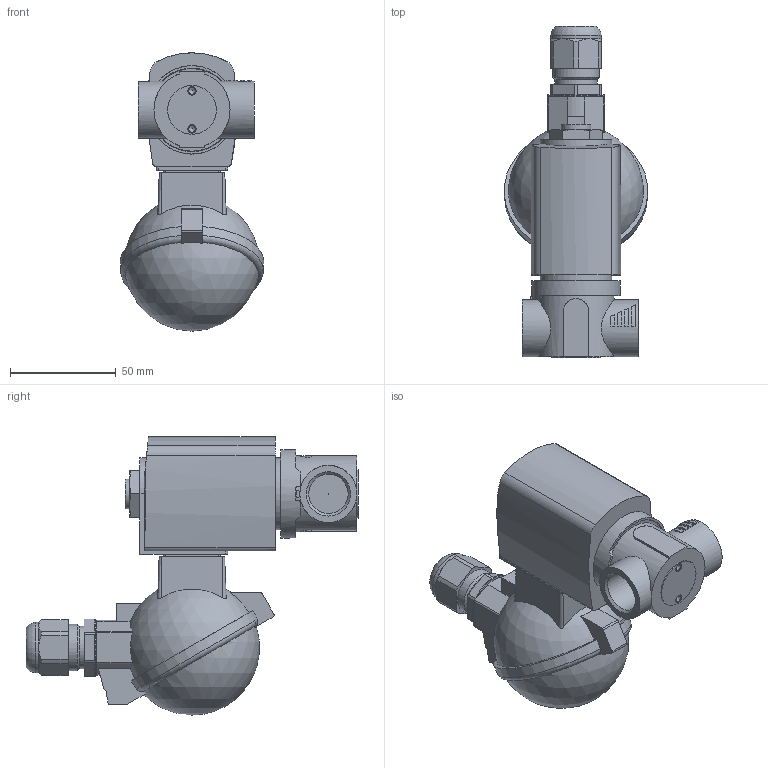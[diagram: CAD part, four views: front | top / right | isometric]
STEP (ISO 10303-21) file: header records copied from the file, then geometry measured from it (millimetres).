
FILE_DESCRIPTION(/* description */ ('STEP AP214'),/* implementation_level */ '2;1');
FILE_NAME(/* name */ '6027-A-10-FKM___FKM-MS-G_1_2-42-024___UC',/* time_stamp */ '2024-03-20T09:47:59+01:00',/* author */ ('License CC BY-ND 4.0'),/* organization */ ('CADENAS'),/* preprocessor_version */ 'ST-DEVELOPER v19.3',/* originating_system */ 'PARTsolutions',/* authorisation */ ' ');
FILE_SCHEMA (('AUTOMOTIVE_DESIGN {1 0 10303 214 3 1 1}'));
Length unit declared in the file: millimetre
Products named in the file (3): 6027-A-10-FKM / FKM-MS-G 1/2-42-024 / UC; AC10ex-42ATEXKLK_MB05Plan-Coil; V027-Gehaeuse G 1/2 1 1 MS G55 3 1
Assembly tree (2 placements, depth 2):
  6027-A-10-FKM / FKM-MS-G 1/2-42-024 / UC
    AC10ex-42ATEXKLK_MB05Plan-Coil
    V027-Gehaeuse G 1/2 1 1 MS G55 3 1
Bounding box: 67.86 x 157.1 x 131.7 mm (x, y, z)
Volume: 358030.1 mm3; surface area: 51120.7 mm2
Topology: 2 solids, 2 shells, 218 faces, 561 edges, 366 vertices
Faces by surface type: plane 121, cylinder 65, cone 25, sphere 4, torus 3
Full cylindrical faces by diameter (mm): 0.2 x1, 3.242 x3, 14 x2, 17.294 x1, 18.631 x2, 20 x1, 22 x1, 23 x2, 24 x1, 27 x3, 34 x1, 36 x1, 39 x1, 39.5 x1, 41.8 x1
Entity records: 7577 total; most frequent: CARTESIAN_POINT 1325, DIRECTION 1117, ORIENTED_EDGE 1024, EDGE_CURVE 512, AXIS2_PLACEMENT_3D 437, VERTEX_POINT 352, FACE_BOUND 274, EDGE_LOOP 272
